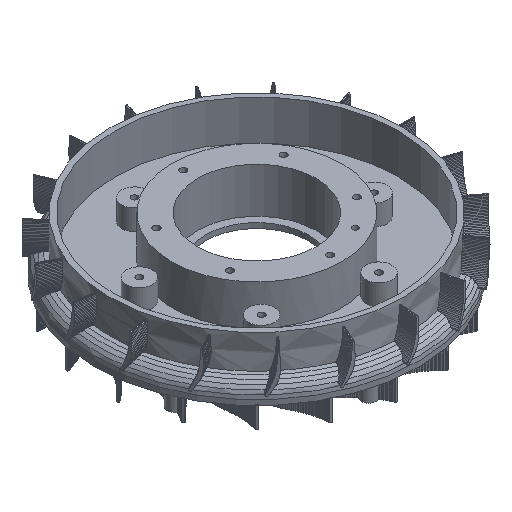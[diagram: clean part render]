
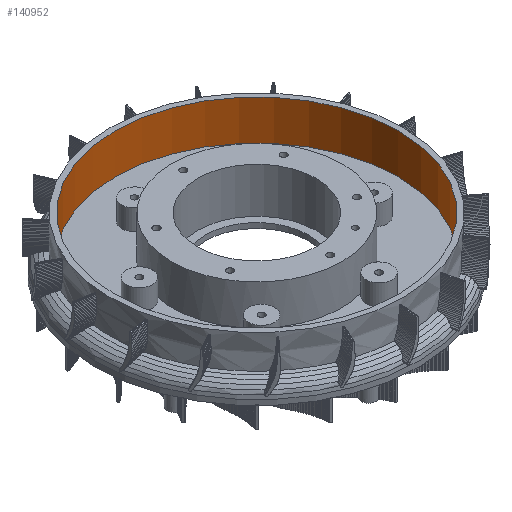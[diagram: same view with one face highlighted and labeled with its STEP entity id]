
A CAD part, isometric view. The second image highlights one B-rep face of the part: STEP entity #140952.
In plain terms, the highlighted cylindrical face has radius 55 mm (diameter 110 mm), a full revolution.
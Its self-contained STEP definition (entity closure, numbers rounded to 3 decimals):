
#137990 = PLANE('',#137991);
#137991 = AXIS2_PLACEMENT_3D('',#137992,#137993,#137994);
#137992 = CARTESIAN_POINT('',(0.,0.,46.5));
#137993 = DIRECTION('',(0.,0.,1.));
#137994 = DIRECTION('',(1.,0.,-0.));
#140379 = EDGE_CURVE('',#140380,#140380,#140382,.T.);
#140380 = VERTEX_POINT('',#140381);
#140381 = CARTESIAN_POINT('',(55.,0.,46.5));
#140382 = SURFACE_CURVE('',#140383,(#140388,#140395),.PCURVE_S1.);
#140383 = CIRCLE('',#140384,55.);
#140384 = AXIS2_PLACEMENT_3D('',#140385,#140386,#140387);
#140385 = CARTESIAN_POINT('',(0.,0.,46.5));
#140386 = DIRECTION('',(0.,0.,1.));
#140387 = DIRECTION('',(1.,0.,-0.));
#140388 = PCURVE('',#137990,#140389);
#140389 = DEFINITIONAL_REPRESENTATION('',(#140390),#140394);
#140390 = CIRCLE('',#140391,55.);
#140391 = AXIS2_PLACEMENT_2D('',#140392,#140393);
#140392 = CARTESIAN_POINT('',(0.,0.));
#140393 = DIRECTION('',(1.,0.));
#140394 = ( GEOMETRIC_REPRESENTATION_CONTEXT(2) 
PARAMETRIC_REPRESENTATION_CONTEXT() REPRESENTATION_CONTEXT('2D SPACE',''
  ) );
#140395 = PCURVE('',#140396,#140401);
#140396 = CYLINDRICAL_SURFACE('',#140397,55.);
#140397 = AXIS2_PLACEMENT_3D('',#140398,#140399,#140400);
#140398 = CARTESIAN_POINT('',(0.,0.,62.));
#140399 = DIRECTION('',(-0.,-0.,-1.));
#140400 = DIRECTION('',(1.,0.,0.));
#140401 = DEFINITIONAL_REPRESENTATION('',(#140402),#140406);
#140402 = LINE('',#140403,#140404);
#140403 = CARTESIAN_POINT('',(-0.,15.5));
#140404 = VECTOR('',#140405,1.);
#140405 = DIRECTION('',(-1.,0.));
#140406 = ( GEOMETRIC_REPRESENTATION_CONTEXT(2) 
PARAMETRIC_REPRESENTATION_CONTEXT() REPRESENTATION_CONTEXT('2D SPACE',''
  ) );
#140952 = ADVANCED_FACE('',(#140953),#140396,.F.);
#140953 = FACE_BOUND('',#140954,.T.);
#140954 = EDGE_LOOP('',(#140955,#140984,#141005,#141006));
#140955 = ORIENTED_EDGE('',*,*,#140956,.T.);
#140956 = EDGE_CURVE('',#140957,#140957,#140959,.T.);
#140957 = VERTEX_POINT('',#140958);
#140958 = CARTESIAN_POINT('',(55.,0.,62.));
#140959 = SURFACE_CURVE('',#140960,(#140965,#140972),.PCURVE_S1.);
#140960 = CIRCLE('',#140961,55.);
#140961 = AXIS2_PLACEMENT_3D('',#140962,#140963,#140964);
#140962 = CARTESIAN_POINT('',(0.,0.,62.));
#140963 = DIRECTION('',(0.,0.,1.));
#140964 = DIRECTION('',(1.,0.,-0.));
#140965 = PCURVE('',#140396,#140966);
#140966 = DEFINITIONAL_REPRESENTATION('',(#140967),#140971);
#140967 = LINE('',#140968,#140969);
#140968 = CARTESIAN_POINT('',(-0.,0.));
#140969 = VECTOR('',#140970,1.);
#140970 = DIRECTION('',(-1.,0.));
#140971 = ( GEOMETRIC_REPRESENTATION_CONTEXT(2) 
PARAMETRIC_REPRESENTATION_CONTEXT() REPRESENTATION_CONTEXT('2D SPACE',''
  ) );
#140972 = PCURVE('',#140973,#140978);
#140973 = PLANE('',#140974);
#140974 = AXIS2_PLACEMENT_3D('',#140975,#140976,#140977);
#140975 = CARTESIAN_POINT('',(0.,0.,62.));
#140976 = DIRECTION('',(0.,0.,1.));
#140977 = DIRECTION('',(1.,0.,-0.));
#140978 = DEFINITIONAL_REPRESENTATION('',(#140979),#140983);
#140979 = CIRCLE('',#140980,55.);
#140980 = AXIS2_PLACEMENT_2D('',#140981,#140982);
#140981 = CARTESIAN_POINT('',(0.,0.));
#140982 = DIRECTION('',(1.,0.));
#140983 = ( GEOMETRIC_REPRESENTATION_CONTEXT(2) 
PARAMETRIC_REPRESENTATION_CONTEXT() REPRESENTATION_CONTEXT('2D SPACE',''
  ) );
#140984 = ORIENTED_EDGE('',*,*,#140985,.T.);
#140985 = EDGE_CURVE('',#140957,#140380,#140986,.T.);
#140986 = SEAM_CURVE('',#140987,(#140991,#140998),.PCURVE_S1.);
#140987 = LINE('',#140988,#140989);
#140988 = CARTESIAN_POINT('',(55.,0.,62.));
#140989 = VECTOR('',#140990,1.);
#140990 = DIRECTION('',(0.,0.,-1.));
#140991 = PCURVE('',#140396,#140992);
#140992 = DEFINITIONAL_REPRESENTATION('',(#140993),#140997);
#140993 = LINE('',#140994,#140995);
#140994 = CARTESIAN_POINT('',(-0.,0.));
#140995 = VECTOR('',#140996,1.);
#140996 = DIRECTION('',(-0.,1.));
#140997 = ( GEOMETRIC_REPRESENTATION_CONTEXT(2) 
PARAMETRIC_REPRESENTATION_CONTEXT() REPRESENTATION_CONTEXT('2D SPACE',''
  ) );
#140998 = PCURVE('',#140396,#140999);
#140999 = DEFINITIONAL_REPRESENTATION('',(#141000),#141004);
#141000 = LINE('',#141001,#141002);
#141001 = CARTESIAN_POINT('',(-6.283,0.));
#141002 = VECTOR('',#141003,1.);
#141003 = DIRECTION('',(-0.,1.));
#141004 = ( GEOMETRIC_REPRESENTATION_CONTEXT(2) 
PARAMETRIC_REPRESENTATION_CONTEXT() REPRESENTATION_CONTEXT('2D SPACE',''
  ) );
#141005 = ORIENTED_EDGE('',*,*,#140379,.F.);
#141006 = ORIENTED_EDGE('',*,*,#140985,.F.);
